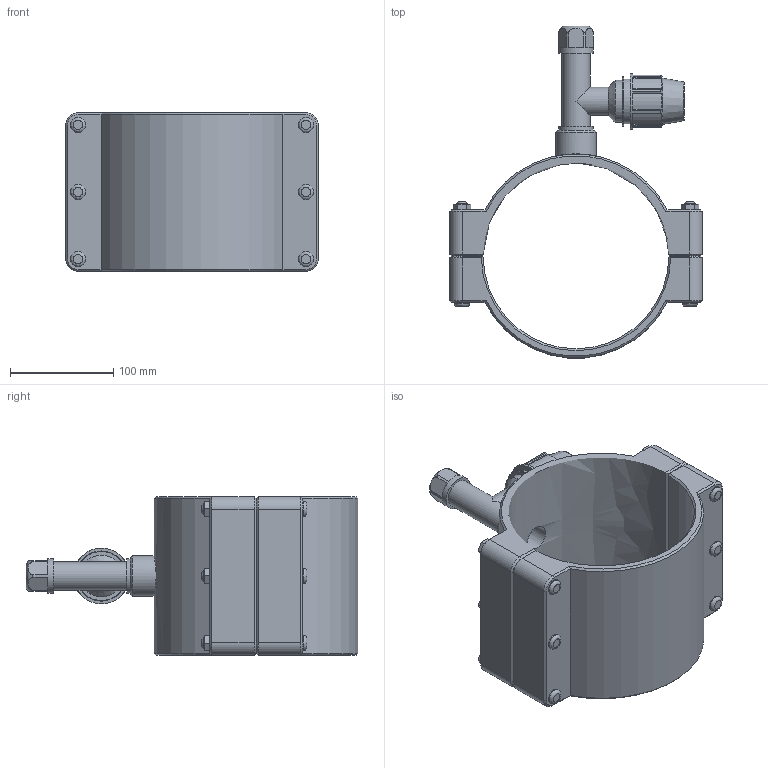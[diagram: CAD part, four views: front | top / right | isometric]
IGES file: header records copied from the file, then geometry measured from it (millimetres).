
Global section: file name: 165400180025_165406180025.ipt; native system: Autodesk Inventor 2015; preprocessor: unknown; author: KIM; date: 20170618.094002; units: millimetre
Bounding box: 245 x 321.65 x 154 mm (x, y, z)
Volume: 1687745.1 mm3; surface area: 283165.9 mm2
Topology: 1 solids, 1 shells, 260 faces, 648 edges, 422 vertices
Faces by surface type: plane 163, cylinder 48, cone 30, revolution 19
Full cylindrical faces by diameter (mm): 10 x6, 15 x12, 27.262 x2, 30.291 x1, 33.32 x2, 39.378 x1, 40.5 x1, 43.2 x1, 48.6 x1, 54 x1
